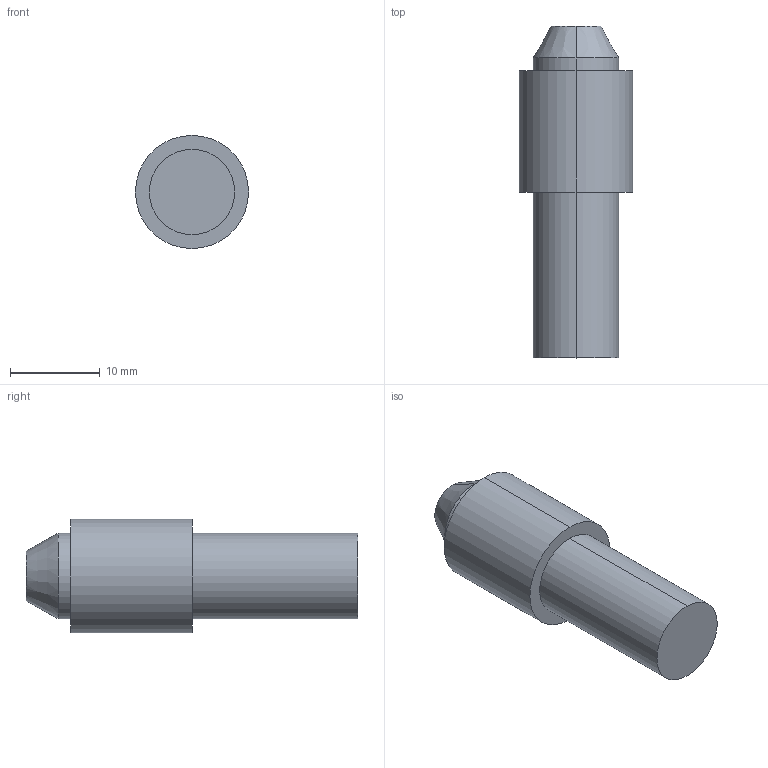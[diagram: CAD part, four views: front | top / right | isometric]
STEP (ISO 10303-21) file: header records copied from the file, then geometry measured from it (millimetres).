
FILE_DESCRIPTION (( 'STEP AP203' ), '1' );
FILE_NAME ('FA60PS06.STEP', '2020-11-27T06:33:41', ( '' ), ( '' ), 'SwSTEP 2.0', 'SolidWorks 2018', '' );
FILE_SCHEMA (( 'CONFIG_CONTROL_DESIGN' ));
Length unit declared in the file: millimetre
Products named in the file (1): FA60PS06
Bounding box: 12.6 x 36.97 x 12.6 mm (x, y, z)
Volume: 3257 mm3; surface area: 1427.6 mm2
Topology: 1 solids, 1 shells, 12 faces, 22 edges, 14 vertices
Faces by surface type: cylinder 6, plane 4, cone 2
Entity records: 381 total; most frequent: DIRECTION 62, CARTESIAN_POINT 49, ORIENTED_EDGE 44, AXIS2_PLACEMENT_3D 27, EDGE_CURVE 22, CIRCLE 14, EDGE_LOOP 14, VERTEX_POINT 14
